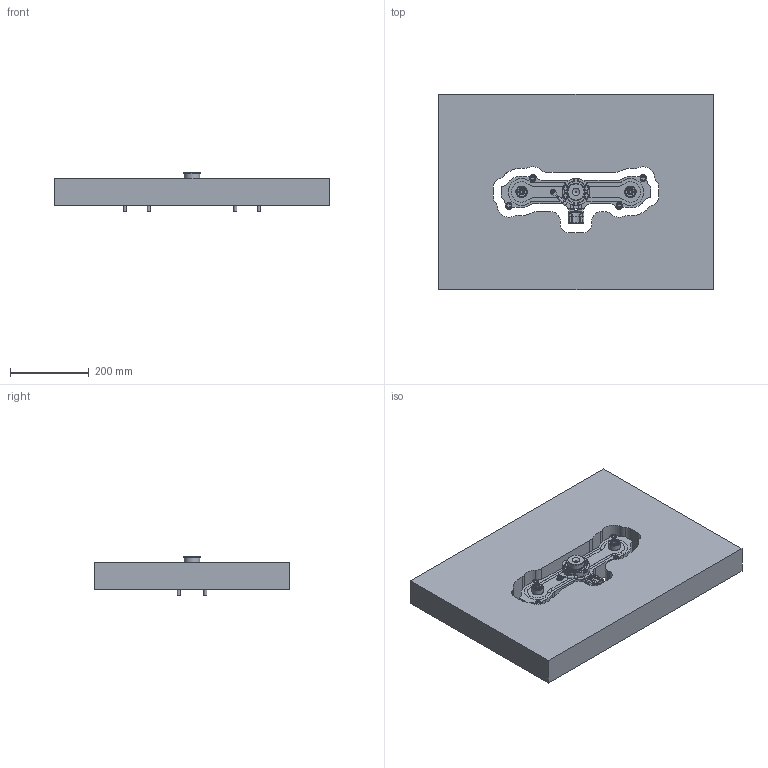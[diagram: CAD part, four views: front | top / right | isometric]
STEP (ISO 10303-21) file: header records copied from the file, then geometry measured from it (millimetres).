
FILE_DESCRIPTION( ( 'STEP AP214' ), '1' );
FILE_NAME( 'D:/Trabalho/Standa_library/MF_140X140_BIM18.step', ' ', ( ' ' ), ( ' ' ), 'PSStep 10.0', ' ', ' ' );
FILE_SCHEMA( ( 'automotive_design' ) );
Length unit declared in the file: millimetre
Products named in the file (33): @41; Bolt1; Bolt2; ManifoldEnd1; Upper_Heater; Lower_Heater; Lower_Copper; Upper_Copper; NL30; CHCM8x016; ACSEME319020; Ring; Box; Cover; Bolt_M5; Nut_M5; Insulation Pad; CHCM06x010; End_Plug; Bolt; MFTSIC140151; M4_Bolt
Bounding box: 696 x 496 x 99 mm (x, y, z)
Volume: 22046662.5 mm3; surface area: 1111140.6 mm2
Topology: 33 solids, 33 shells, 1540 faces, 3775 edges, 2363 vertices
Faces by surface type: plane 624, cylinder 342, cone 254, torus 166, bspline 119, extrusion 25, sphere 8, revolution 2
Full cylindrical faces by diameter (mm): 3.3 x2, 4 x3, 4.2 x1, 4.5 x1, 5 x5, 6 x10, 6.5 x4, 6.7 x10, 6.8 x1, 7 x1, 7.3 x1, 7.5 x1, 8 x17, 9 x4, 9.5 x2, 10 x11, 11 x3, 12 x2, 13 x8, 14 x2, 15 x4, 22.5 x1, 26 x2, 29.2 x3, 40 x1, 41 x1, 42.5 x1, 70 x1
Entity records: 63606 total; most frequent: CARTESIAN_POINT 15828, DIRECTION 7354, ORIENTED_EDGE 7046, EDGE_CURVE 3523, AXIS2_PLACEMENT_3D 2872, VERTEX_POINT 2320, EDGE_LOOP 1863, FACE_OUTER_BOUND 1677
